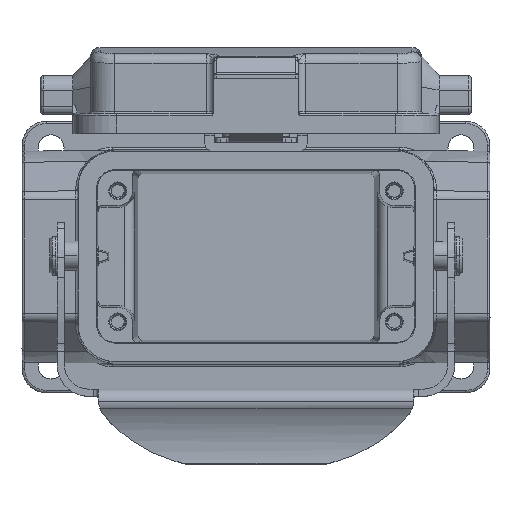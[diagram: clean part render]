
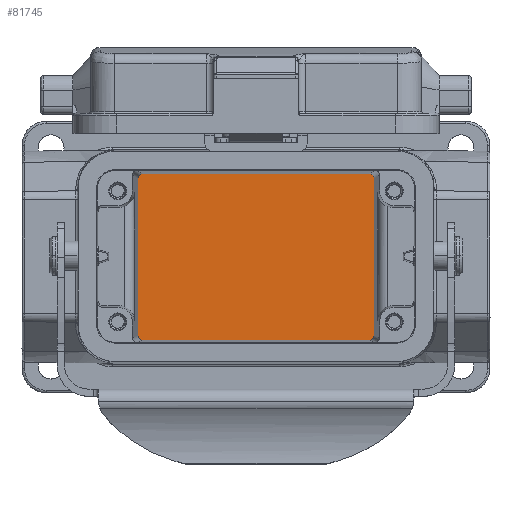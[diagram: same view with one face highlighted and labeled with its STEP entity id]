
A CAD part, top view. The second image highlights one B-rep face of the part: STEP entity #81745.
In plain terms, the highlighted planar face has unit normal (0, 0, 1) as drawn and (0, 1, 0) by its records, which use the part's own axes.
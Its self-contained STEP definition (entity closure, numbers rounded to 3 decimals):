
#1544 = LINE ( 'NONE', #23217, #71579 ) ;
#1844 = EDGE_CURVE ( 'NONE', #12204, #35690, #4942, .T. ) ;
#2327 = CARTESIAN_POINT ( 'NONE',  ( 16.181, 4., -14.108 ) ) ;
#2618 = CARTESIAN_POINT ( 'NONE',  ( -17.18, 4., 33.608 ) ) ;
#4942 =( BOUNDED_CURVE ( )  B_SPLINE_CURVE ( 3, ( #21096, #48333, #41567, #54880 ),
 .UNSPECIFIED., .F., .T. ) 
 B_SPLINE_CURVE_WITH_KNOTS ( ( 4, 4 ),
 ( 2.678, 4.249 ),
 .UNSPECIFIED. ) 
 CURVE ( )  GEOMETRIC_REPRESENTATION_ITEM ( )  RATIONAL_B_SPLINE_CURVE ( ( 1., 0.805, 0.805, 1. ) ) 
 REPRESENTATION_ITEM ( '' )  );
#5107 = DIRECTION ( 'NONE',  ( -1., 0., 0. ) ) ;
#6920 = EDGE_CURVE ( 'NONE', #21698, #63871, #20309, .T. ) ;
#11404 = FACE_OUTER_BOUND ( 'NONE', #26791, .T. ) ;
#12204 = VERTEX_POINT ( 'NONE', #60342 ) ;
#12424 = ORIENTED_EDGE ( 'NONE', *, *, #23054, .T. ) ;
#12996 = VERTEX_POINT ( 'NONE', #46253 ) ;
#13808 = CARTESIAN_POINT ( 'NONE',  ( 0., 4., 0. ) ) ;
#16868 = CARTESIAN_POINT ( 'NONE',  ( -16.766, 4., -14.108 ) ) ;
#17872 = EDGE_CURVE ( 'NONE', #47923, #72470, #72219, .T. ) ;
#18182 = ORIENTED_EDGE ( 'NONE', *, *, #17872, .T. ) ;
#20309 = LINE ( 'NONE', #31909, #47844 ) ;
#20349 = PLANE ( 'NONE',  #35975 ) ;
#21096 = CARTESIAN_POINT ( 'NONE',  ( 16.181, 4., 34.608 ) ) ;
#21698 = VERTEX_POINT ( 'NONE', #75094 ) ;
#22141 = CARTESIAN_POINT ( 'NONE',  ( 17.18, 4., 33.608 ) ) ;
#23054 = EDGE_CURVE ( 'NONE', #72470, #12996, #37044, .T. ) ;
#23217 = CARTESIAN_POINT ( 'NONE',  ( 0., 4., 34.608 ) ) ;
#24153 = EDGE_CURVE ( 'NONE', #35690, #71335, #58924, .T. ) ;
#24778 = EDGE_CURVE ( 'NONE', #12996, #12204, #1544, .T. ) ;
#25765 = ORIENTED_EDGE ( 'NONE', *, *, #1844, .T. ) ;
#26328 = CARTESIAN_POINT ( 'NONE',  ( 17.18, 4., -13.108 ) ) ;
#26791 = EDGE_LOOP ( 'NONE', ( #42922, #18182, #12424, #58304, #25765, #43007, #50079, #39377 ) ) ;
#27786 = DIRECTION ( 'NONE',  ( 0., 1., 0. ) ) ;
#28877 = CARTESIAN_POINT ( 'NONE',  ( -17.18, 4., -13.108 ) ) ;
#31437 = CARTESIAN_POINT ( 'NONE',  ( -16.181, 4., -14.108 ) ) ;
#31909 = CARTESIAN_POINT ( 'NONE',  ( 0., 4., -14.108 ) ) ;
#32027 = DIRECTION ( 'NONE',  ( 0., 0., 1. ) ) ;
#35690 = VERTEX_POINT ( 'NONE', #22141 ) ;
#35975 = AXIS2_PLACEMENT_3D ( 'NONE', #13808, #27786, #47598 ) ;
#37044 =( BOUNDED_CURVE ( )  B_SPLINE_CURVE ( 3, ( #2618, #84166, #56894, #76468 ),
 .UNSPECIFIED., .F., .T. ) 
 B_SPLINE_CURVE_WITH_KNOTS ( ( 4, 4 ),
 ( 5.176, 6.747 ),
 .UNSPECIFIED. ) 
 CURVE ( )  GEOMETRIC_REPRESENTATION_ITEM ( )  RATIONAL_B_SPLINE_CURVE ( ( 1., 0.805, 0.805, 1. ) ) 
 REPRESENTATION_ITEM ( '' )  );
#38723 = CARTESIAN_POINT ( 'NONE',  ( 17.18, 4., 42.06 ) ) ;
#38767 = EDGE_CURVE ( 'NONE', #63871, #47923, #41377, .T. ) ;
#39377 = ORIENTED_EDGE ( 'NONE', *, *, #6920, .T. ) ;
#41377 =( BOUNDED_CURVE ( )  B_SPLINE_CURVE ( 3, ( #31437, #16868, #43561, #44156 ),
 .UNSPECIFIED., .F., .F. ) 
 B_SPLINE_CURVE_WITH_KNOTS ( ( 4, 4 ),
 ( 2.678, 4.249 ),
 .UNSPECIFIED. ) 
 CURVE ( )  GEOMETRIC_REPRESENTATION_ITEM ( )  RATIONAL_B_SPLINE_CURVE ( ( 1., 0.805, 0.805, 1. ) ) 
 REPRESENTATION_ITEM ( '' )  );
#41567 = CARTESIAN_POINT ( 'NONE',  ( 17.18, 4., 34.194 ) ) ;
#41957 = VECTOR ( 'NONE', #57972, 1000. ) ;
#42157 = CARTESIAN_POINT ( 'NONE',  ( 17.18, 4., -13.108 ) ) ;
#42922 = ORIENTED_EDGE ( 'NONE', *, *, #38767, .T. ) ;
#43007 = ORIENTED_EDGE ( 'NONE', *, *, #24153, .T. ) ;
#43451 =( BOUNDED_CURVE ( )  B_SPLINE_CURVE ( 3, ( #42157, #48067, #76474, #2327 ),
 .UNSPECIFIED., .F., .T. ) 
 B_SPLINE_CURVE_WITH_KNOTS ( ( 4, 4 ),
 ( 5.176, 6.747 ),
 .UNSPECIFIED. ) 
 CURVE ( )  GEOMETRIC_REPRESENTATION_ITEM ( )  RATIONAL_B_SPLINE_CURVE ( ( 1., 0.805, 0.805, 1. ) ) 
 REPRESENTATION_ITEM ( '' )  );
#43561 = CARTESIAN_POINT ( 'NONE',  ( -17.18, 4., -13.694 ) ) ;
#44156 = CARTESIAN_POINT ( 'NONE',  ( -17.18, 4., -13.108 ) ) ;
#46253 = CARTESIAN_POINT ( 'NONE',  ( -16.181, 4., 34.608 ) ) ;
#47598 = DIRECTION ( 'NONE',  ( 0., 0., 1. ) ) ;
#47844 = VECTOR ( 'NONE', #5107, 1000. ) ;
#47923 = VERTEX_POINT ( 'NONE', #28877 ) ;
#48067 = CARTESIAN_POINT ( 'NONE',  ( 17.18, 4., -13.694 ) ) ;
#48296 = CARTESIAN_POINT ( 'NONE',  ( -16.181, 4., -14.108 ) ) ;
#48333 = CARTESIAN_POINT ( 'NONE',  ( 16.766, 4., 34.608 ) ) ;
#50079 = ORIENTED_EDGE ( 'NONE', *, *, #58624, .T. ) ;
#54880 = CARTESIAN_POINT ( 'NONE',  ( 17.18, 4., 33.608 ) ) ;
#56894 = CARTESIAN_POINT ( 'NONE',  ( -16.766, 4., 34.608 ) ) ;
#57972 = DIRECTION ( 'NONE',  ( 0., 0., -1. ) ) ;
#58304 = ORIENTED_EDGE ( 'NONE', *, *, #24778, .T. ) ;
#58624 = EDGE_CURVE ( 'NONE', #71335, #21698, #43451, .T. ) ;
#58924 = LINE ( 'NONE', #38723, #41957 ) ;
#60342 = CARTESIAN_POINT ( 'NONE',  ( 16.181, 4., 34.608 ) ) ;
#63871 = VERTEX_POINT ( 'NONE', #48296 ) ;
#64377 = DIRECTION ( 'NONE',  ( 1., 0., 0. ) ) ;
#66022 = CARTESIAN_POINT ( 'NONE',  ( -17.18, 4., -42.06 ) ) ;
#66960 = VECTOR ( 'NONE', #32027, 1000. ) ;
#71335 = VERTEX_POINT ( 'NONE', #26328 ) ;
#71579 = VECTOR ( 'NONE', #64377, 1000. ) ;
#72219 = LINE ( 'NONE', #66022, #66960 ) ;
#72470 = VERTEX_POINT ( 'NONE', #80146 ) ;
#75094 = CARTESIAN_POINT ( 'NONE',  ( 16.181, 4., -14.108 ) ) ;
#76468 = CARTESIAN_POINT ( 'NONE',  ( -16.181, 4., 34.608 ) ) ;
#76474 = CARTESIAN_POINT ( 'NONE',  ( 16.766, 4., -14.108 ) ) ;
#80146 = CARTESIAN_POINT ( 'NONE',  ( -17.18, 4., 33.608 ) ) ;
#81745 = ADVANCED_FACE ( 'NONE', ( #11404 ), #20349, .T. ) ;
#84166 = CARTESIAN_POINT ( 'NONE',  ( -17.18, 4., 34.194 ) ) ;
